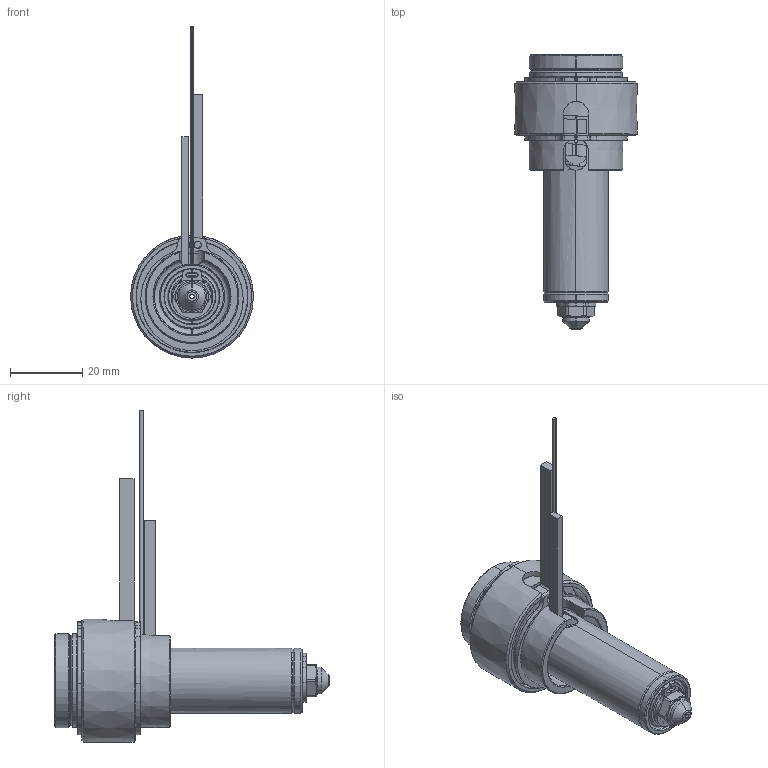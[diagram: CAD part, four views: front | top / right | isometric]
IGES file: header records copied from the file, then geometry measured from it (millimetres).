
Start section: SolidWorks IGES file using analytic representation for surfaces
Global section: file name: C:\Documents and Settings\ws-20\Desktop\TEM\UGER2501-S-A-0 [Øb-1.30 ØC-5.0].IGS; native system: SolidWorks 2012; preprocessor: SolidWorks 2012; author: ws-20; date: 120405.104944; units: millimetre
Bounding box: 34 x 75.9 x 91.9 mm (x, y, z)
Surface area: 21363.8 mm2 (no closed solid volume)
Topology: 0 solids, 0 shells, 206 faces, 2761 edges, 2761 vertices
Faces by surface type: revolution 131, bspline 75
